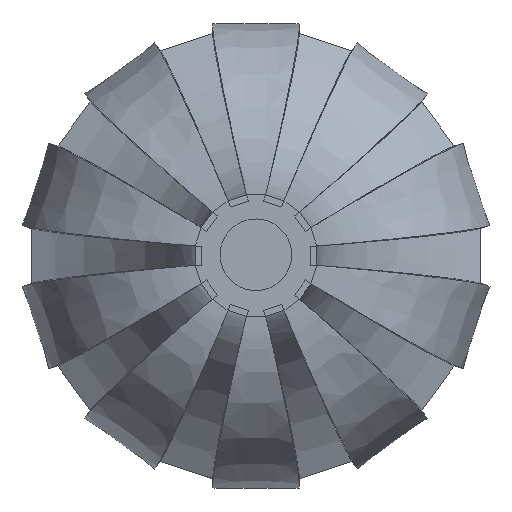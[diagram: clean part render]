
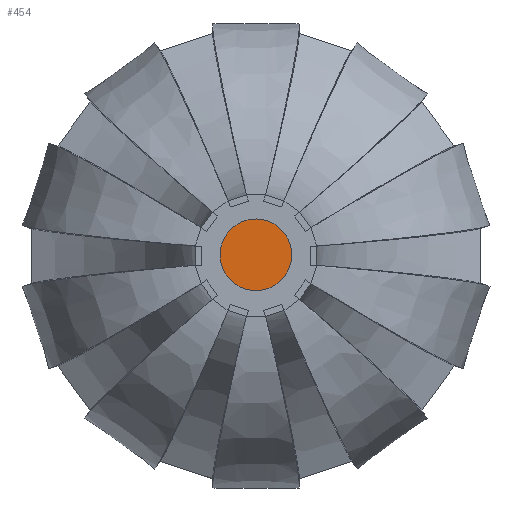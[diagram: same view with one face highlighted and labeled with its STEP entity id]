
A CAD part, top view. The second image highlights one B-rep face of the part: STEP entity #454.
In plain terms, the highlighted planar face has unit normal (0, 0, 1).
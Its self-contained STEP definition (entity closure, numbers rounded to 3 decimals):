
#45=PLANE('',#3256);
#136=(
BOUNDED_CURVE()
B_SPLINE_CURVE(2,(#69710,#69711,#69712,#69713,#69714),.UNSPECIFIED.,.F.,
 .F.)
B_SPLINE_CURVE_WITH_KNOTS((3,2,3),(0.,7.854,15.708),
 .UNSPECIFIED.)
CURVE()
GEOMETRIC_REPRESENTATION_ITEM()
RATIONAL_B_SPLINE_CURVE((1.,0.707,1.,0.707,1.))
REPRESENTATION_ITEM('')
);
#147=(
BOUNDED_CURVE()
B_SPLINE_CURVE(2,(#69751,#69752,#69753,#69754,#69755),.UNSPECIFIED.,.F.,
 .F.)
B_SPLINE_CURVE_WITH_KNOTS((3,2,3),(15.708,23.562,31.416),
 .UNSPECIFIED.)
CURVE()
GEOMETRIC_REPRESENTATION_ITEM()
RATIONAL_B_SPLINE_CURVE((1.,0.707,1.,0.707,1.))
REPRESENTATION_ITEM('')
);
#454=ADVANCED_FACE('',(#667),#45,.T.);
#667=FACE_OUTER_BOUND('',#882,.T.);
#882=EDGE_LOOP('',(#1808,#1809));
#1808=ORIENTED_EDGE('',*,*,#2312,.F.);
#1809=ORIENTED_EDGE('',*,*,#2301,.F.);
#2301=EDGE_CURVE('',#2993,#2999,#136,.T.);
#2312=EDGE_CURVE('',#2999,#2993,#147,.T.);
#2993=VERTEX_POINT('',#69696);
#2999=VERTEX_POINT('',#69702);
#3256=AXIS2_PLACEMENT_3D('',#69660,#3294,$);
#3294=DIRECTION('',(0.,0.,1.));
#69660=CARTESIAN_POINT('',(-62.548,62.554,1060.751));
#69696=CARTESIAN_POINT('',(49.952,0.054,1060.751));
#69702=CARTESIAN_POINT('',(-50.048,0.054,1060.751));
#69710=CARTESIAN_POINT('',(49.952,0.054,1060.751));
#69711=CARTESIAN_POINT('',(49.952,-49.946,1060.751));
#69712=CARTESIAN_POINT('',(-0.048,-49.946,1060.751));
#69713=CARTESIAN_POINT('',(-50.048,-49.946,1060.751));
#69714=CARTESIAN_POINT('',(-50.048,0.054,1060.751));
#69751=CARTESIAN_POINT('',(-50.048,0.054,1060.751));
#69752=CARTESIAN_POINT('',(-50.048,50.054,1060.751));
#69753=CARTESIAN_POINT('',(-0.048,50.054,1060.751));
#69754=CARTESIAN_POINT('',(49.952,50.054,1060.751));
#69755=CARTESIAN_POINT('',(49.952,0.054,1060.751));
